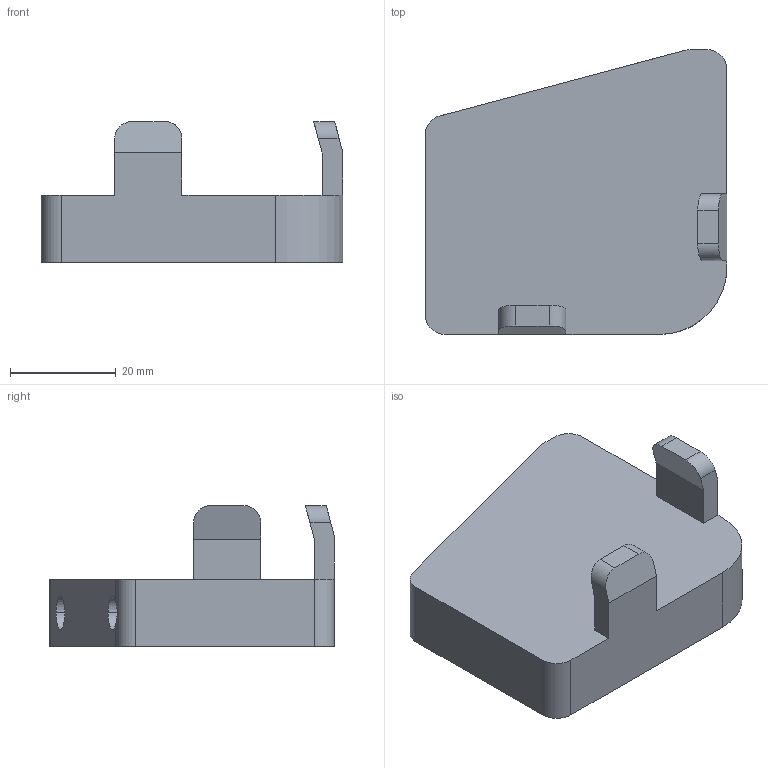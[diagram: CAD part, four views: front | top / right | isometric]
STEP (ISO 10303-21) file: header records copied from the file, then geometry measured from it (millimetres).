
FILE_DESCRIPTION (( 'STEP AP214' ), '1' );
FILE_NAME ('CORNER CLAMP LH STUDENTS_REV A.STEP', '2019-09-19T01:32:25', ( 'HP z420' ), ( '' ), 'SwSTEP 2.0', 'SolidWorks 2018', '' );
FILE_SCHEMA (( 'AUTOMOTIVE_DESIGN' ));
Length unit declared in the file: inch
Products named in the file (2): Corner Clamp LH; CORNER CLAMP LH STUDENTS_REV A
Assembly tree (1 placements, depth 2):
  CORNER CLAMP LH STUDENTS_REV A
    Corner Clamp LH
Bounding box: 57.15 x 53.98 x 26.67 mm (x, y, z)
Volume: 33107 mm3; surface area: 10558.9 mm2
Topology: 1 solids, 1 shells, 49 faces, 145 edges, 95 vertices
Faces by surface type: plane 26, cylinder 21, cone 2
Entity records: 1791 total; most frequent: CARTESIAN_POINT 359, ORIENTED_EDGE 286, DIRECTION 271, EDGE_CURVE 143, VERTEX_POINT 95, VECTOR 93, LINE 93, AXIS2_PLACEMENT_3D 89
